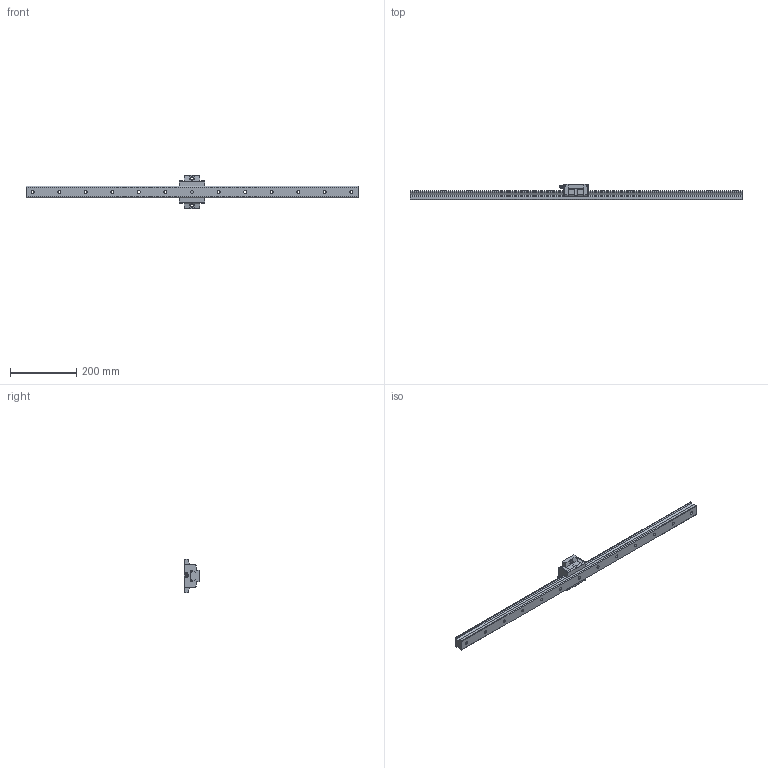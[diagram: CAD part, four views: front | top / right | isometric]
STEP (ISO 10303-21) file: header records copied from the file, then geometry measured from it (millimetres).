
FILE_DESCRIPTION(/* description */ ('STEP AP214'),/* implementation_level */ '2;1');
FILE_NAME(/* name */ 'SSR35XSB1SS-1000L_G20_0_B-M6F_461-25_0_0_0',/* time_stamp */ '2023-08-10T09:19:38+02:00',/* author */ ('License CC BY-ND 4.0'),/* organization */ ('CADENAS'),/* preprocessor_version */ 'ST-DEVELOPER v19.3',/* originating_system */ 'PARTsolutions',/* authorisation */ ' ');
FILE_SCHEMA (('AUTOMOTIVE_DESIGN {1 0 10303 214 3 1 1}'));
Length unit declared in the file: millimetre
Products named in the file (4): SSR35XSB1SS-1000L_G20_0_B-M6F_461-25_0_0_0_; B-M6F-SSR_grease_nipple_joint; SSR35XSBSSB-M6F Slide15-35; SSR35XSB100020 Track
Assembly tree (3 placements, depth 2):
  SSR35XSB1SS-1000L_G20_0_B-M6F_461-25_0_0_0_
    B-M6F-SSR_grease_nipple_joint
    SSR35XSBSSB-M6F Slide15-35
    SSR35XSB100020 Track
Bounding box: 1000 x 48 x 100 mm (x, y, z)
Volume: 972372.5 mm3; surface area: 171609.6 mm2
Topology: 3 solids, 3 shells, 203 faces, 520 edges, 341 vertices
Faces by surface type: plane 129, cylinder 56, cone 13, sphere 3, torus 2
Full cylindrical faces by diameter (mm): 4 x4, 4.917 x2, 6 x1, 8 x1, 9 x15, 14 x13
Entity records: 6049 total; most frequent: CARTESIAN_POINT 1122, DIRECTION 994, ORIENTED_EDGE 924, EDGE_CURVE 462, AXIS2_PLACEMENT_3D 351, VERTEX_POINT 333, FACE_BOUND 301, EDGE_LOOP 299
